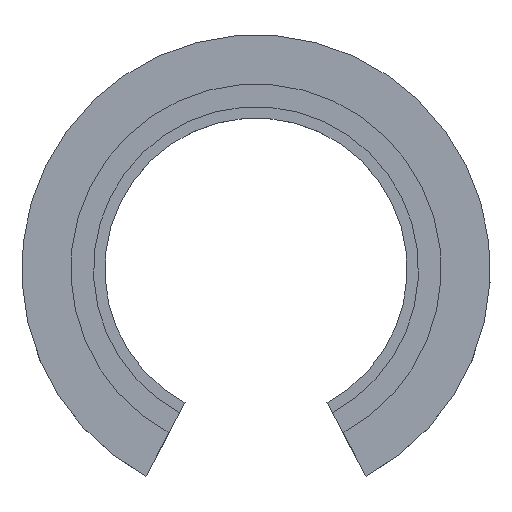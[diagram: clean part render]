
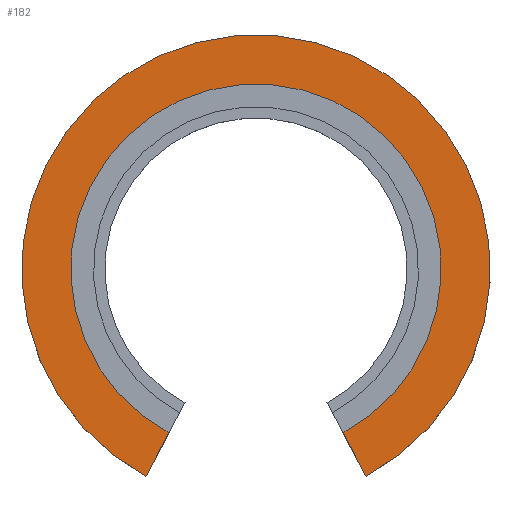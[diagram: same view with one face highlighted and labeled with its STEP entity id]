
A CAD part, top view. The second image highlights one B-rep face of the part: STEP entity #182.
In plain terms, the highlighted planar face has unit normal (0, 0, 1).
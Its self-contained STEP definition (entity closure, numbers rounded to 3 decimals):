
#22=CIRCLE('',#231,24.5);
#23=CIRCLE('',#233,31.);
#36=FACE_OUTER_BOUND('',#46,.T.);
#46=EDGE_LOOP('',(#151,#152,#153,#154));
#52=LINE('',#307,#68);
#66=LINE('',#335,#82);
#68=VECTOR('',#249,10.);
#82=VECTOR('',#265,10.);
#83=VERTEX_POINT('',#303);
#85=VERTEX_POINT('',#306);
#92=VERTEX_POINT('',#321);
#98=VERTEX_POINT('',#333);
#100=EDGE_CURVE('',#85,#83,#52,.T.);
#114=EDGE_CURVE('',#92,#98,#66,.T.);
#118=EDGE_CURVE('',#98,#85,#22,.T.);
#119=EDGE_CURVE('',#83,#92,#23,.T.);
#151=ORIENTED_EDGE('',*,*,#100,.T.);
#152=ORIENTED_EDGE('',*,*,#119,.T.);
#153=ORIENTED_EDGE('',*,*,#114,.T.);
#154=ORIENTED_EDGE('',*,*,#118,.T.);
#174=PLANE('',#232);
#182=ADVANCED_FACE('',(#36),#174,.T.);
#231=AXIS2_PLACEMENT_3D('',#342,#278,#279);
#232=AXIS2_PLACEMENT_3D('',#343,#280,#281);
#233=AXIS2_PLACEMENT_3D('',#344,#282,#283);
#249=DIRECTION('',(0.469,-0.883,0.));
#265=DIRECTION('',(0.469,0.883,0.));
#278=DIRECTION('center_axis',(0.,0.,-1.));
#279=DIRECTION('ref_axis',(-1.,0.,0.));
#280=DIRECTION('center_axis',(0.,0.,1.));
#281=DIRECTION('ref_axis',(1.,0.,0.));
#282=DIRECTION('center_axis',(0.,0.,1.));
#283=DIRECTION('ref_axis',(1.,0.,0.));
#303=CARTESIAN_POINT('',(14.554,-27.371,2.5));
#306=CARTESIAN_POINT('',(11.502,-21.632,2.5));
#307=CARTESIAN_POINT('',(0.,0.,2.5));
#321=CARTESIAN_POINT('',(-14.554,-27.371,2.5));
#333=CARTESIAN_POINT('',(-11.502,-21.632,2.5));
#335=CARTESIAN_POINT('',(-10.159,-19.107,2.5));
#342=CARTESIAN_POINT('Origin',(0.,0.,2.5));
#343=CARTESIAN_POINT('Origin',(0.,0.,2.5));
#344=CARTESIAN_POINT('Origin',(0.,0.,2.5));
